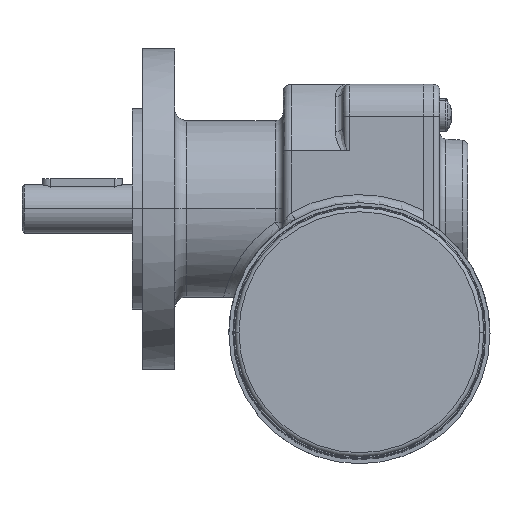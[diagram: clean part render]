
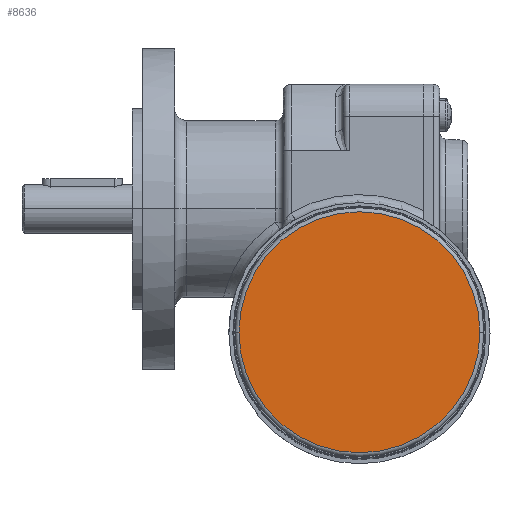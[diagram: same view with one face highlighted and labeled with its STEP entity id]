
A CAD part, top view. The second image highlights one B-rep face of the part: STEP entity #8636.
In plain terms, the highlighted planar face has unit normal (0, 0, 1).
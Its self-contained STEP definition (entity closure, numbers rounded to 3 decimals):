
#1380 = DIRECTION ( 'NONE',  ( 0., 0., 1. ) ) ;
#1530 = AXIS2_PLACEMENT_3D ( 'NONE', #11518, #8555, #7555 ) ;
#1966 = VERTEX_POINT ( 'NONE', #5270 ) ;
#2273 = VERTEX_POINT ( 'NONE', #2409 ) ;
#2409 = CARTESIAN_POINT ( 'NONE',  ( 14.398, -7.957, 167. ) ) ;
#2551 = CIRCLE ( 'NONE', #9110, 30. ) ;
#3967 = CARTESIAN_POINT ( 'NONE',  ( -15.602, -7.957, 167. ) ) ;
#5213 = CIRCLE ( 'NONE', #16410, 30. ) ;
#5270 = CARTESIAN_POINT ( 'NONE',  ( -45.602, -7.957, 167. ) ) ;
#6174 = CARTESIAN_POINT ( 'NONE',  ( -15.602, -7.957, 167. ) ) ;
#6241 = EDGE_LOOP ( 'NONE', ( #8302, #16427 ) ) ;
#7555 = DIRECTION ( 'NONE',  ( -1., 0., 0. ) ) ;
#8284 = FACE_OUTER_BOUND ( 'NONE', #6241, .T. ) ;
#8302 = ORIENTED_EDGE ( 'NONE', *, *, #8405, .T. ) ;
#8405 = EDGE_CURVE ( 'NONE', #1966, #2273, #5213, .T. ) ;
#8555 = DIRECTION ( 'NONE',  ( 0., 0., -1. ) ) ;
#8636 = ADVANCED_FACE ( 'NONE', ( #8284 ), #13769, .F. ) ;
#9110 = AXIS2_PLACEMENT_3D ( 'NONE', #6174, #17122, #11541 ) ;
#9414 = DIRECTION ( 'NONE',  ( -1., 0., 0. ) ) ;
#11518 = CARTESIAN_POINT ( 'NONE',  ( -15.602, 23.043, 167. ) ) ;
#11541 = DIRECTION ( 'NONE',  ( -1., 0., 0. ) ) ;
#12855 = EDGE_CURVE ( 'NONE', #2273, #1966, #2551, .T. ) ;
#13769 = PLANE ( 'NONE',  #1530 ) ;
#16410 = AXIS2_PLACEMENT_3D ( 'NONE', #3967, #1380, #9414 ) ;
#16427 = ORIENTED_EDGE ( 'NONE', *, *, #12855, .T. ) ;
#17122 = DIRECTION ( 'NONE',  ( 0., 0., 1. ) ) ;
